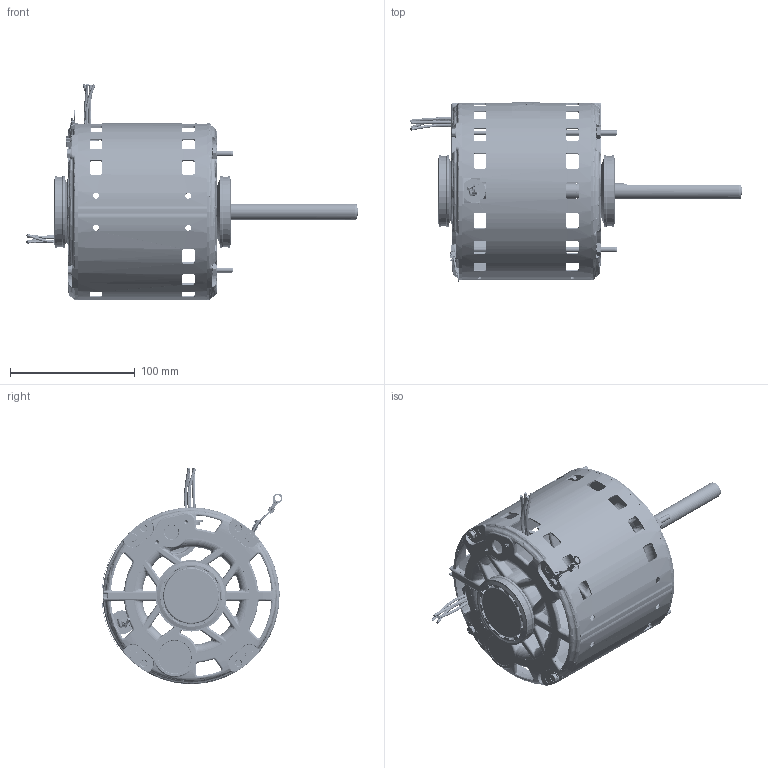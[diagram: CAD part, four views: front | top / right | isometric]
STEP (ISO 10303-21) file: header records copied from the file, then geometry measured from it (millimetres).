
FILE_DESCRIPTION (( 'STEP AP203' ), '1' );
FILE_NAME ('5KCP39HGE213ES_RevA.STEP', '2022-05-04T12:08:09', ( '' ), ( '' ), 'SwSTEP 2.0', 'SolidWorks 2021', '' );
FILE_SCHEMA (( 'CONFIG_CONTROL_DESIGN' ));
Products named in the file (1): 5KCP39HGE213ES_RevA
Bounding box: 265.93 x 144.88 x 173.44 mm (x, y, z)
Volume: 251829.1 mm3; surface area: 234783.2 mm2
Topology: 27 solids, 27 shells, 5212 faces, 13691 edges, 8334 vertices
Faces by surface type: bspline 1778, plane 1238, cylinder 1102, torus 580, cone 458, sphere 56
Entity records: 218119 total; most frequent: CARTESIAN_POINT 105264, ORIENTED_EDGE 27014, DIRECTION 19617, EDGE_CURVE 13507, VERTEX_POINT 8334, AXIS2_PLACEMENT_3D 8178, EDGE_LOOP 5397, ADVANCED_FACE 5212
